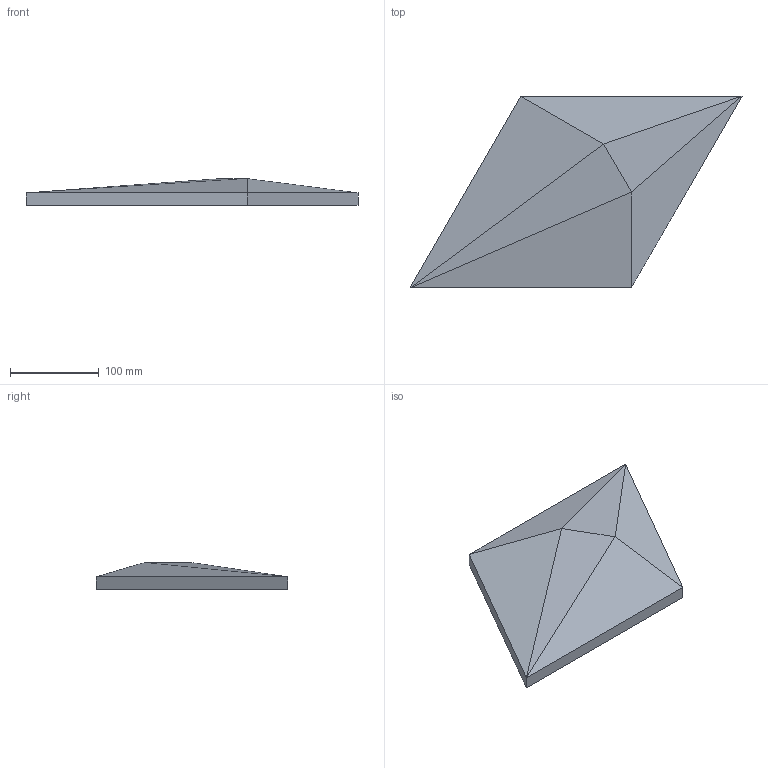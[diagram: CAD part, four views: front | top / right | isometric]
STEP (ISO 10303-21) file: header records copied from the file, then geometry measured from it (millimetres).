
FILE_DESCRIPTION(/* description */ (''),/* implementation_level */ '2;1');
FILE_NAME(/* name */ 'E02_DI~1',/* time_stamp */ '2022-11-14T20:34:09+01:00',/* author */ (''),/* organization */ (''),/* preprocessor_version */ 'ST-DEVELOPER v15',/* originating_system */ '',/* authorisation */ '');
FILE_SCHEMA (('AUTOMOTIVE_DESIGN'));
Length unit declared in the file: millimetre
Products named in the file (1): Document
Bounding box: 375 x 216.51 x 30 mm (x, y, z)
Volume: 1118616.1 mm3; surface area: 123165.3 mm2
Topology: 1 solids, 1 shells, 11 faces, 19 edges, 10 vertices
Faces by surface type: plane 11
Entity records: 238 total; most frequent: CARTESIAN_POINT 61, ORIENTED_EDGE 38, EDGE_CURVE 19, B_SPLINE_CURVE_WITH_KNOTS 19, DIRECTION 15, AXIS2_PLACEMENT_3D 13, ADVANCED_FACE 11, FACE_OUTER_BOUND 11
